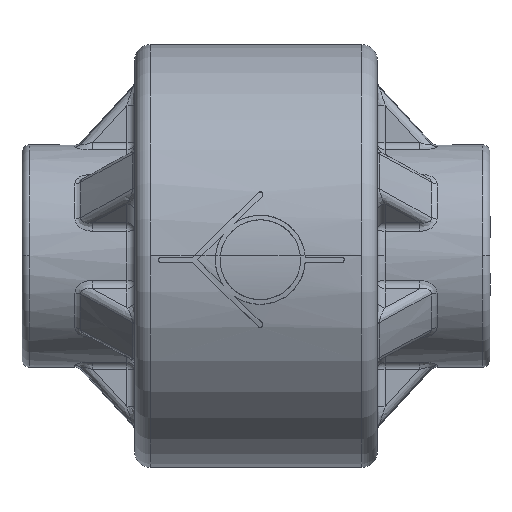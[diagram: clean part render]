
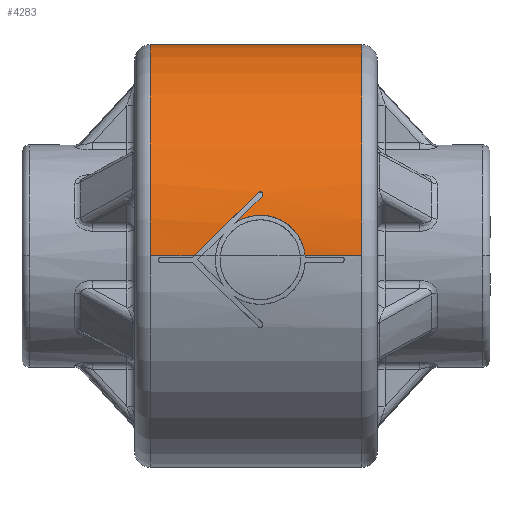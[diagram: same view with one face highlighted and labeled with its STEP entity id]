
A CAD part, top view. The second image highlights one B-rep face of the part: STEP entity #4283.
In plain terms, the highlighted cylindrical face has radius 6.75 mm (diameter 13.5 mm), a partial arc.
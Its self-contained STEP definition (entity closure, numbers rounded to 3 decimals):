
#166=CYLINDRICAL_SURFACE('',#4703,6.75);
#262=B_SPLINE_CURVE_WITH_KNOTS('',3,(#9192,#9193,#9194,#9195),
 .UNSPECIFIED.,.F.,.F.,(4,4),(0.,0.976),.UNSPECIFIED.);
#263=B_SPLINE_CURVE_WITH_KNOTS('',3,(#9197,#9198,#9199,#9200,#9201,#9202,
#9203,#9204,#9205,#9206,#9207,#9208,#9209,#9210,#9211,#9212,#9213,#9214,
#9215,#9216,#9217,#9218),.UNSPECIFIED.,.F.,.F.,(4,3,3,3,3,3,3,4),(0.,0.18,
0.25,0.5,0.625,0.75,0.93,1.),.UNSPECIFIED.);
#264=B_SPLINE_CURVE_WITH_KNOTS('',3,(#9220,#9221,#9222,#9223,#9224,#9225),
 .UNSPECIFIED.,.F.,.F.,(4,2,4),(0.,0.063,0.126),
 .UNSPECIFIED.);
#265=B_SPLINE_CURVE_WITH_KNOTS('',3,(#9226,#9227,#9228,#9229,#9230,#9231,
#9232,#9233,#9234,#9235,#9236,#9237,#9238,#9239),.UNSPECIFIED.,.F.,.F.,
(4,2,2,2,2,2,4),(0.017,0.25,0.375,0.5,0.625,0.75,1.),
 .UNSPECIFIED.);
#425=LINE('',#9083,#570);
#426=LINE('',#9085,#571);
#431=LINE('',#9187,#576);
#570=VECTOR('',#5479,6.75);
#571=VECTOR('',#5480,1.809);
#576=VECTOR('',#5489,1.404);
#805=FACE_OUTER_BOUND('',#1079,.T.);
#1079=EDGE_LOOP('',(#3031,#3032,#3033,#3034,#3035,#3036,#3037,#3038,#3039));
#1311=CIRCLE('',#4547,6.75);
#1411=CIRCLE('',#4704,6.75);
#1667=VERTEX_POINT('',#6813);
#1668=VERTEX_POINT('',#6814);
#1732=VERTEX_POINT('',#9082);
#1733=VERTEX_POINT('',#9084);
#1745=VERTEX_POINT('',#9184);
#1746=VERTEX_POINT('',#9186);
#1747=VERTEX_POINT('',#9191);
#1748=VERTEX_POINT('',#9196);
#1749=VERTEX_POINT('',#9219);
#2052=EDGE_CURVE('',#1668,#1667,#1311,.T.);
#2199=EDGE_CURVE('',#1667,#1732,#425,.T.);
#2200=EDGE_CURVE('',#1668,#1733,#426,.T.);
#2213=EDGE_CURVE('',#1745,#1746,#431,.T.);
#2215=EDGE_CURVE('',#1732,#1746,#1411,.T.);
#2216=EDGE_CURVE('',#1747,#1745,#262,.T.);
#2217=EDGE_CURVE('',#1748,#1747,#263,.T.);
#2218=EDGE_CURVE('',#1749,#1748,#264,.T.);
#2219=EDGE_CURVE('',#1733,#1749,#265,.T.);
#3031=ORIENTED_EDGE('',*,*,#2052,.T.);
#3032=ORIENTED_EDGE('',*,*,#2199,.T.);
#3033=ORIENTED_EDGE('',*,*,#2215,.T.);
#3034=ORIENTED_EDGE('',*,*,#2213,.F.);
#3035=ORIENTED_EDGE('',*,*,#2216,.F.);
#3036=ORIENTED_EDGE('',*,*,#2217,.F.);
#3037=ORIENTED_EDGE('',*,*,#2218,.F.);
#3038=ORIENTED_EDGE('',*,*,#2219,.F.);
#3039=ORIENTED_EDGE('',*,*,#2200,.F.);
#4283=ADVANCED_FACE('',(#805),#166,.T.);
#4547=AXIS2_PLACEMENT_3D('',#6817,#5151,#5152);
#4703=AXIS2_PLACEMENT_3D('',#9189,#5492,#5493);
#4704=AXIS2_PLACEMENT_3D('',#9190,#5494,#5495);
#5151=DIRECTION('center_axis',(-1.,0.,0.));
#5152=DIRECTION('ref_axis',(0.,0.,1.));
#5479=DIRECTION('',(-1.,0.,0.));
#5480=DIRECTION('',(-1.,0.,0.));
#5489=DIRECTION('',(-1.,0.,0.));
#5492=DIRECTION('center_axis',(-1.,0.,0.));
#5493=DIRECTION('ref_axis',(0.,1.,0.));
#5494=DIRECTION('center_axis',(1.,0.,0.));
#5495=DIRECTION('ref_axis',(0.,0.,-1.));
#6813=CARTESIAN_POINT('',(3.375,0.,-6.75));
#6814=CARTESIAN_POINT('',(3.375,0.,6.75));
#6817=CARTESIAN_POINT('Origin',(3.375,0.,0.));
#9082=CARTESIAN_POINT('',(-3.375,0.,-6.75));
#9083=CARTESIAN_POINT('',(3.375,0.,-6.75));
#9084=CARTESIAN_POINT('',(1.566,0.,6.75));
#9085=CARTESIAN_POINT('',(3.375,0.,6.75));
#9184=CARTESIAN_POINT('',(-1.971,0.,6.75));
#9186=CARTESIAN_POINT('',(-3.375,0.,6.75));
#9187=CARTESIAN_POINT('',(-1.971,0.,6.75));
#9189=CARTESIAN_POINT('Origin',(3.375,0.,0.));
#9190=CARTESIAN_POINT('Origin',(-3.375,0.,0.));
#9191=CARTESIAN_POINT('',(0.076,2.016,6.442));
#9192=CARTESIAN_POINT('Ctrl Pts',(0.076,2.016,6.442));
#9193=CARTESIAN_POINT('Ctrl Pts',(-0.606,1.365,6.646));
#9194=CARTESIAN_POINT('Ctrl Pts',(-1.288,0.682,6.75));
#9195=CARTESIAN_POINT('Ctrl Pts',(-1.971,0.,6.75));
#9196=CARTESIAN_POINT('',(0.197,1.901,6.477));
#9197=CARTESIAN_POINT('Ctrl Pts',(0.197,1.901,6.477));
#9198=CARTESIAN_POINT('Ctrl Pts',(0.209,1.913,6.473));
#9199=CARTESIAN_POINT('Ctrl Pts',(0.216,1.926,6.469));
#9200=CARTESIAN_POINT('Ctrl Pts',(0.22,1.941,6.465));
#9201=CARTESIAN_POINT('Ctrl Pts',(0.221,1.946,6.463));
#9202=CARTESIAN_POINT('Ctrl Pts',(0.221,1.952,6.462));
#9203=CARTESIAN_POINT('Ctrl Pts',(0.221,1.958,6.46));
#9204=CARTESIAN_POINT('Ctrl Pts',(0.221,1.981,6.453));
#9205=CARTESIAN_POINT('Ctrl Pts',(0.213,2.,6.447));
#9206=CARTESIAN_POINT('Ctrl Pts',(0.197,2.016,6.442));
#9207=CARTESIAN_POINT('Ctrl Pts',(0.188,2.024,6.44));
#9208=CARTESIAN_POINT('Ctrl Pts',(0.179,2.03,6.438));
#9209=CARTESIAN_POINT('Ctrl Pts',(0.169,2.034,6.436));
#9210=CARTESIAN_POINT('Ctrl Pts',(0.159,2.037,6.435));
#9211=CARTESIAN_POINT('Ctrl Pts',(0.148,2.04,6.435));
#9212=CARTESIAN_POINT('Ctrl Pts',(0.136,2.04,6.434));
#9213=CARTESIAN_POINT('Ctrl Pts',(0.12,2.04,6.434));
#9214=CARTESIAN_POINT('Ctrl Pts',(0.105,2.036,6.436));
#9215=CARTESIAN_POINT('Ctrl Pts',(0.092,2.027,6.438));
#9216=CARTESIAN_POINT('Ctrl Pts',(0.086,2.024,6.439));
#9217=CARTESIAN_POINT('Ctrl Pts',(0.081,2.02,6.441));
#9218=CARTESIAN_POINT('Ctrl Pts',(0.076,2.016,6.442));
#9219=CARTESIAN_POINT('',(-0.692,1.034,6.67));
#9220=CARTESIAN_POINT('Ctrl Pts',(-0.692,1.034,6.67));
#9221=CARTESIAN_POINT('Ctrl Pts',(-0.544,1.181,6.648));
#9222=CARTESIAN_POINT('Ctrl Pts',(-0.396,1.326,6.62));
#9223=CARTESIAN_POINT('Ctrl Pts',(-0.1,1.615,
6.556));
#9224=CARTESIAN_POINT('Ctrl Pts',(0.048,1.759,6.519));
#9225=CARTESIAN_POINT('Ctrl Pts',(0.197,1.901,6.477));
#9226=CARTESIAN_POINT('Ctrl Pts',(1.566,0.,6.75));
#9227=CARTESIAN_POINT('Ctrl Pts',(1.543,0.237,6.75));
#9228=CARTESIAN_POINT('Ctrl Pts',(1.462,0.466,6.737));
#9229=CARTESIAN_POINT('Ctrl Pts',(1.259,0.769,6.707));
#9230=CARTESIAN_POINT('Ctrl Pts',(1.174,0.864,6.695));
#9231=CARTESIAN_POINT('Ctrl Pts',(0.981,1.03,6.672));
#9232=CARTESIAN_POINT('Ctrl Pts',(0.875,1.099,6.66));
#9233=CARTESIAN_POINT('Ctrl Pts',(0.645,1.208,6.641));
#9234=CARTESIAN_POINT('Ctrl Pts',(0.523,1.247,6.634));
#9235=CARTESIAN_POINT('Ctrl Pts',(0.272,1.293,6.625));
#9236=CARTESIAN_POINT('Ctrl Pts',(0.145,1.299,6.624));
#9237=CARTESIAN_POINT('Ctrl Pts',(-0.238,1.268,6.63));
#9238=CARTESIAN_POINT('Ctrl Pts',(-0.483,1.18,6.648));
#9239=CARTESIAN_POINT('Ctrl Pts',(-0.692,1.034,6.67));
